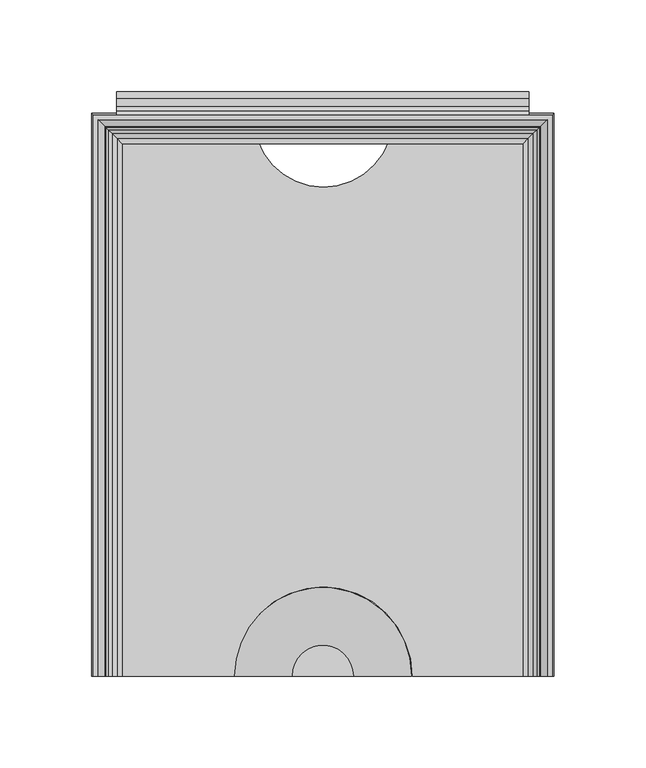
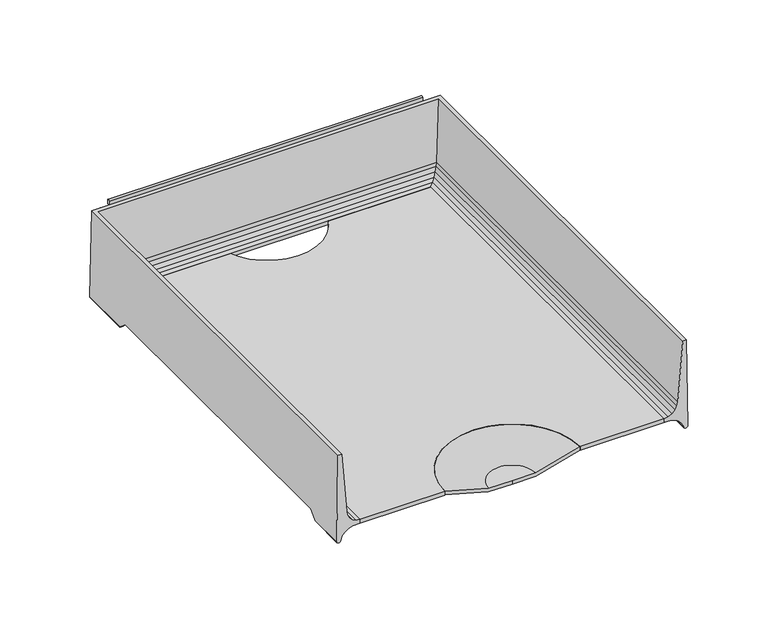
"""IFC4 building model written with IfcOpenShell, lengths in millimetres: furniture geometry."""

from ifc_helpers import new_model, si_unit, point, frame, frame_2d, origin, place, context, project, spatial, polyline, circle_curve, ellipse_curve, trimmed, segment, composite_curve, outline, extrude, source, transform, mapped, element, save
from ifc_brep_helpers import plane_surface, cylinder_surface, revolved_surface, advanced_brep


def furniture_f982e0c0(model_context):
    return source(origin(), model_context, "Body", "SolidModel", [
        advanced_brep(
        [(126.0820502, -154.0206082, 853.1892089), (125.1325529, -154.0206082, 918.5886514), (122.4547921, -154.0206082, 918.5886514), (118.8379747, -154.0206082, 873.8015603), (118.4123648, -154.0206082, 871.0680652), (117.0774354, -154.0206082, 868.3670264), (114.9656457, -154.0206082, 866.2180615), (112.28832, -154.0206082, 864.8361861), (109.3133381, -154.0206082, 864.3596652), (109.3133381, -154.0206082, 861.5375571), (114.5666739, -154.0206082, 861.3445587), (117.605351, -154.0206082, 860.2881818), (120.2416, -154.0206082, 858.4443422), (122.2762142, -154.0206082, 855.9523679), (123.1625518, -154.0206082, 852.9091255), (126.0820502, -127.6379698, 853.1892089), (126.0026181, -121.5231874, 858.660332), (126.0026181, 109.0611937, 858.660332), (126.0820502, 115.1759816, 853.1892089), (126.0820502, 153.036442, 853.1892089), (125.1325529, 152.0869447, 918.5886514), (-125.1325529, 152.0869447, 918.5886514), (-125.1325529, -154.0206082, 918.5886514), (-122.4547921, -154.0206082, 918.5886514), (-122.4547921, 149.4091839, 918.5886514), (122.4547921, 149.4091839, 918.5886514), (118.8379747, 145.7923665, 873.8015603), (118.4123648, 145.3667566, 871.0680652), (117.0774354, 144.0318272, 868.3670264), (114.9656457, 141.9200375, 866.2180615), (112.28832, 139.2427118, 864.8361861), (109.3133381, 136.2677299, 864.3596652), (109.3133381, 136.2677299, 861.5375571), (114.5666739, 141.5210656, 861.3445587), (117.605351, 144.5597428, 860.2881818), (120.2416, 147.1959918, 858.4443422), (120.2416, 109.3025941, 858.4443422), (119.9327864, 109.0611937, 858.660332), (119.9327864, -121.5231874, 858.660332), (120.2416, -121.7645876, 858.4443422), (122.2762142, -124.5497344, 855.9523679), (122.2762142, 149.230606, 855.9523679), (122.2762142, 112.0877435, 855.9523679), (123.1625518, -127.9510041, 852.9091255), (123.1625518, 150.1169436, 852.9091255), (123.1625518, 115.4890162, 852.9091255), (-126.0820502, 153.036442, 853.1892089), (-118.8379747, 145.7923665, 873.8015603), (-118.4123648, 145.3667566, 871.0680652), (-117.0774354, 144.0318272, 868.3670264), (-114.9656457, 141.9200375, 866.2180615), (-112.28832, 139.2427118, 864.8361861), (-109.3133381, 136.2677299, 864.3596652), (-109.3133381, 136.2677299, 861.5375571), (-114.5666739, 141.5210656, 861.3445587), (-117.605351, 144.5597428, 860.2881818), (-120.2416, 147.1959918, 858.4443422), (-122.2762142, 149.230606, 855.9523679), (-123.1625518, 150.1169436, 852.9091255), (-126.0820502, -154.0206082, 853.1892089), (-123.1625518, -154.0206082, 852.9091255), (-122.2762142, -154.0206082, 855.9523679), (-120.2416, -154.0206082, 858.4443422), (-117.605351, -154.0206082, 860.2881818), (-114.5666739, -154.0206082, 861.3445587), (-109.3133381, -154.0206082, 861.5375571), (-109.3133381, -154.0206082, 864.3596652), (-112.28832, -154.0206082, 864.8361861), (-114.9656457, -154.0206082, 866.2180615), (-117.0774354, -154.0206082, 868.3670264), (-118.4123648, -154.0206082, 871.0680652), (-118.8379747, -154.0206082, 873.8015603), (-126.0820502, 115.1759816, 853.1892089), (-126.0026181, 109.0611937, 858.660332), (-126.0026181, -121.5231874, 858.660332), (-126.0820502, -127.6379698, 853.1892089), (-120.2416, -121.7645876, 858.4443422), (-119.9327864, -121.5231874, 858.660332), (-119.9327864, 109.0611937, 858.660332), (-120.2416, 109.3025941, 858.4443422), (-122.2762142, 112.0877435, 855.9523679), (-122.2762142, -124.5497344, 855.9523679), (-123.1625518, 115.4890162, 852.9091255), (-123.1625518, -127.9510041, 852.9091255)],
        [
            (0, 1),
            (1, 2),
            (2, 3),
            (3, 4),
            (4, 5),
            (5, 6),
            (6, 7),
            (7, 8),
            (8, 9),
            (9, 10),
            (10, 11),
            (11, 12),
            (12, 13),
            (13, 14),
            (14, 0, circle_curve(frame((124.5859452, -154.0206082, 853.4281285), z_axis=(0.0, -1.0, 0.0), x_axis=(-1.0, 0.0, 0.0)), 1.515062)),
            (0, 15),
            (15, 16),
            (16, 17),
            (17, 18),
            (18, 19),
            (19, 20),
            (20, 1),
            (20, 21),
            (21, 22),
            (22, 23),
            (23, 24),
            (24, 25),
            (25, 2),
            (25, 26),
            (26, 3),
            (26, 27),
            (27, 4),
            (27, 28),
            (28, 5),
            (28, 29),
            (29, 6),
            (29, 30),
            (30, 7),
            (30, 31),
            (31, 8),
            (31, 32),
            (32, 9),
            (32, 33),
            (33, 10),
            (33, 34),
            (34, 11),
            (34, 35),
            (35, 36),
            (36, 37),
            (37, 38),
            (38, 39),
            (39, 12),
            (39, 40),
            (40, 13),
            (35, 41),
            (41, 42),
            (42, 36),
            (40, 43),
            (43, 14),
            (41, 44),
            (44, 45),
            (45, 42),
            (43, 15, ellipse_curve(frame((124.5859452, -127.3709422, 853.4281285), z_axis=(0.0, -0.6667949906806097, 0.7452411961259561), x_axis=(0.0, -0.7452411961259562, -0.6667949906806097)), 2.2721556, 1.515062)),
            (44, 19, ellipse_curve(frame((124.5859452, 151.540337, 853.4281285), z_axis=(0.7071067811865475, -0.7071067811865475, 0.0), x_axis=(-0.7071067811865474, -0.7071067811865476, 0.0)), 2.1426212, 1.515062)),
            (18, 45, ellipse_curve(frame((124.5859452, 114.9089538, 853.4281285), z_axis=(0.0, 0.6667946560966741, 0.7452414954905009), x_axis=(0.0, -0.7452414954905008, 0.6667946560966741)), 2.2721567, 1.515062)),
            (19, 46),
            (46, 21),
            (24, 47),
            (47, 26),
            (47, 48),
            (48, 27),
            (48, 49),
            (49, 28),
            (49, 50),
            (50, 29),
            (50, 51),
            (51, 30),
            (51, 52),
            (52, 31),
            (52, 53),
            (53, 32),
            (53, 54),
            (54, 33),
            (54, 55),
            (55, 34),
            (55, 56),
            (56, 35),
            (56, 57),
            (57, 41),
            (57, 58),
            (58, 44),
            (58, 46, ellipse_curve(frame((-124.5859452, 151.540337, 853.4281285), z_axis=(0.7071067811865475, 0.7071067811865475, 0.0), x_axis=(0.7071067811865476, -0.7071067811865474, 0.0)), 2.1426212, 1.515062)),
            (22, 59),
            (59, 60, circle_curve(frame((-124.5859452, -154.0206082, 853.4281285), z_axis=(0.0, -1.0, 0.0), x_axis=(1.0, 0.0, 0.0)), 1.515062)),
            (60, 61),
            (61, 62),
            (62, 63),
            (63, 64),
            (64, 65),
            (65, 66),
            (66, 67),
            (67, 68),
            (68, 69),
            (69, 70),
            (70, 71),
            (71, 23),
            (46, 72),
            (72, 73),
            (73, 74),
            (74, 75),
            (75, 59),
            (71, 47),
            (70, 48),
            (69, 49),
            (68, 50),
            (67, 51),
            (66, 52),
            (65, 53),
            (64, 54),
            (63, 55),
            (62, 76),
            (76, 77),
            (77, 78),
            (78, 79),
            (79, 56),
            (79, 80),
            (80, 57),
            (61, 81),
            (81, 76),
            (80, 82),
            (82, 58),
            (60, 83),
            (83, 81),
            (82, 72, ellipse_curve(frame((-124.5859452, 114.9089538, 853.4281285), z_axis=(0.0, 0.6667946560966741, 0.7452414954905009), x_axis=(0.0, 0.7452414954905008, -0.6667946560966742)), 2.2721567, 1.515062)),
            (75, 83, ellipse_curve(frame((-124.5859452, -127.3709422, 853.4281285), z_axis=(0.0, -0.6667949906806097, 0.7452411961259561), x_axis=(0.0, 0.745241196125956, 0.6667949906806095)), 2.2721556, 1.515062)),
            (38, 16),
            (74, 77),
            (37, 17),
            (73, 78),
        ],
        [
            plane_surface(frame((127.0, -154.0206082, 851.91346), z_axis=(0.0, -1.0, 0.0), x_axis=(0.0, 0.0, 1.0))),
            plane_surface(frame((126.0820502, -154.0206082, 853.1892089), z_axis=(0.9998946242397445, 0.0, 0.014516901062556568), x_axis=(0.0, 1.0, 0.0))),
            plane_surface(frame((125.1325529, -154.0206082, 918.5886514), z_axis=(0.0, 0.0, 1.0), x_axis=(0.0, 1.0, 0.0))),
            plane_surface(frame((122.4547921, -154.0206082, 918.5886514), z_axis=(-0.9967551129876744, 0.0, 0.08049375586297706), x_axis=(0.0, 1.0, 0.0))),
            plane_surface(frame((118.8379747, -154.0206082, 873.8015603), z_axis=(-0.9880945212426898, 0.0, 0.15384803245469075), x_axis=(0.0, 1.0, 0.0))),
            plane_surface(frame((118.4123648, -154.0206082, 871.0680652), z_axis=(-0.8964873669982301, 0.0, 0.44306929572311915), x_axis=(0.0, 1.0, 0.0))),
            plane_surface(frame((117.0774354, -154.0206082, 868.3670264), z_axis=(-0.7132491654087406, 0.0, 0.7009105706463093), x_axis=(0.0, 1.0, 0.0))),
            plane_surface(frame((114.9656457, -154.0206082, 866.2180615), z_axis=(-0.45865074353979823, 0.0, 0.8886166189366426), x_axis=(0.0, 1.0, 0.0))),
            plane_surface(frame((112.28832, -154.0206082, 864.8361861), z_axis=(-0.15816001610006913, 0.0, 0.987413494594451), x_axis=(0.0, 1.0, 0.0))),
            plane_surface(frame((109.3133381, -154.0206082, 864.3596652), z_axis=(-1.0, 0.0, 0.0), x_axis=(0.0, 1.0, 0.0))),
            plane_surface(frame((109.3133381, -154.0206082, 861.5375571), z_axis=(-0.036713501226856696, 0.0, -0.9993258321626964), x_axis=(0.0, 1.0, 0.0))),
            plane_surface(frame((114.5666739, -154.0206082, 861.3445587), z_axis=(-0.3283669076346, 0.0, -0.9445502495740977), x_axis=(0.0, 1.0, 0.0))),
            plane_surface(frame((117.605351, -154.0206082, 860.2881818), z_axis=(-0.5731421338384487, 0.0, -0.819455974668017), x_axis=(0.0, 1.0, 0.0))),
            plane_surface(frame((120.2416, -154.0206082, 858.4443422), z_axis=(-0.77460799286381, 0.0, -0.6324416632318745), x_axis=(0.0, 1.0, 0.0))),
            plane_surface(frame((122.2762142, -154.0206082, 855.9523679), z_axis=(-0.9601080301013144, 0.0, -0.2796293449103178), x_axis=(0.0, 1.0, 0.0))),
            cylinder_surface(frame((124.5859452, -154.0206082, 853.4281285), z_axis=(0.0, -1.0, 0.0), x_axis=(-1.0, 0.0, 0.0)), 1.515062),
            plane_surface(frame((126.0820502, 153.036442, 853.1892089), z_axis=(0.0, 0.9998946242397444, 0.014516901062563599), x_axis=(-1.0, 0.0, 0.0))),
            plane_surface(frame((122.4547921, 149.4091839, 918.5886514), z_axis=(0.0, -0.9967551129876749, 0.08049375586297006), x_axis=(-1.0, 0.0, 0.0))),
            plane_surface(frame((118.8379747, 145.7923665, 873.8015603), z_axis=(0.0, -0.9880945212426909, 0.15384803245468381), x_axis=(-1.0, 0.0, 0.0))),
            plane_surface(frame((118.4123648, 145.3667566, 871.0680652), z_axis=(0.0, -0.8964873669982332, 0.4430692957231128), x_axis=(-1.0, 0.0, 0.0))),
            plane_surface(frame((117.0774354, 144.0318272, 868.3670264), z_axis=(0.0, -0.7132491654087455, 0.7009105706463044), x_axis=(-1.0, 0.0, 0.0))),
            plane_surface(frame((114.9656457, 141.9200375, 866.2180615), z_axis=(0.0, -0.4586507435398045, 0.8886166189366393), x_axis=(-1.0, 0.0, 0.0))),
            plane_surface(frame((112.28832, 139.2427118, 864.8361861), z_axis=(0.0, -0.15816001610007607, 0.9874134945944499), x_axis=(-1.0, 0.0, 0.0))),
            plane_surface(frame((109.3133381, 136.2677299, 864.3596652), z_axis=(0.0, -1.0, 0.0), x_axis=(-1.0, 0.0, 0.0))),
            plane_surface(frame((109.3133381, 136.2677299, 861.5375571), z_axis=(0.0, -0.03671350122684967, -0.9993258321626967), x_axis=(-1.0, 0.0, 0.0))),
            plane_surface(frame((114.5666739, 141.5210656, 861.3445587), z_axis=(0.0, -0.32836690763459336, -0.9445502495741), x_axis=(-1.0, 0.0, 0.0))),
            plane_surface(frame((117.605351, 144.5597428, 860.2881818), z_axis=(0.0, -0.5731421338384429, -0.819455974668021), x_axis=(-1.0, 0.0, 0.0))),
            plane_surface(frame((120.2416, 147.1959918, 858.4443422), z_axis=(0.0, -0.7746079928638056, -0.6324416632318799), x_axis=(-1.0, 0.0, 0.0))),
            plane_surface(frame((122.2762142, 149.230606, 855.9523679), z_axis=(0.0, -0.9601080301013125, -0.27962934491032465), x_axis=(-1.0, 0.0, 0.0))),
            cylinder_surface(frame((127.0, 151.540337, 853.4281285), z_axis=(1.0, 0.0, 0.0), x_axis=(0.0, -1.0, 0.0)), 1.515062),
            plane_surface(frame((-127.0, -154.0206082, 851.91346), z_axis=(0.0, -1.0, 0.0), x_axis=(0.0, 0.0, 1.0))),
            plane_surface(frame((-126.0820502, 153.036442, 853.1892089), z_axis=(-0.9998946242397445, 0.0, 0.014516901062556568), x_axis=(0.0, -1.0, 0.0))),
            plane_surface(frame((-122.4547921, 149.4091839, 918.5886514), z_axis=(0.9967551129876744, 0.0, 0.08049375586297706), x_axis=(0.0, -1.0, 0.0))),
            plane_surface(frame((-118.8379747, 145.7923665, 873.8015603), z_axis=(0.9880945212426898, 0.0, 0.15384803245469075), x_axis=(0.0, -1.0, 0.0))),
            plane_surface(frame((-118.4123648, 145.3667566, 871.0680652), z_axis=(0.8964873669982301, 0.0, 0.44306929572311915), x_axis=(0.0, -1.0, 0.0))),
            plane_surface(frame((-117.0774354, 144.0318272, 868.3670264), z_axis=(0.7132491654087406, 0.0, 0.7009105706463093), x_axis=(0.0, -1.0, 0.0))),
            plane_surface(frame((-114.9656457, 141.9200375, 866.2180615), z_axis=(0.45865074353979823, 0.0, 0.8886166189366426), x_axis=(0.0, -1.0, 0.0))),
            plane_surface(frame((-112.28832, 139.2427118, 864.8361861), z_axis=(0.15816001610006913, 0.0, 0.987413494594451), x_axis=(0.0, -1.0, 0.0))),
            plane_surface(frame((-109.3133381, 136.2677299, 864.3596652), z_axis=(1.0, 0.0, 0.0), x_axis=(0.0, -1.0, 0.0))),
            plane_surface(frame((-109.3133381, 136.2677299, 861.5375571), z_axis=(0.036713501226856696, 0.0, -0.9993258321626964), x_axis=(0.0, -1.0, 0.0))),
            plane_surface(frame((-114.5666739, 141.5210656, 861.3445587), z_axis=(0.3283669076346, 0.0, -0.9445502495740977), x_axis=(0.0, -1.0, 0.0))),
            plane_surface(frame((-117.605351, 144.5597428, 860.2881818), z_axis=(0.5731421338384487, 0.0, -0.819455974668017), x_axis=(0.0, -1.0, 0.0))),
            plane_surface(frame((-120.2416, 147.1959918, 858.4443422), z_axis=(0.77460799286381, 0.0, -0.6324416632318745), x_axis=(0.0, -1.0, 0.0))),
            plane_surface(frame((-122.2762142, 149.230606, 855.9523679), z_axis=(0.9601080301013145, 0.0, -0.2796293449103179), x_axis=(0.0, -1.0, 0.0))),
            cylinder_surface(frame((-124.5859452, 153.9543918, 853.4281285), z_axis=(0.0, 1.0, 0.0), x_axis=(1.0, 0.0, 0.0)), 1.515062),
            plane_surface(frame((-127.0, -130.1695728, 850.9240896), z_axis=(0.0, 0.6667949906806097, -0.7452411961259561), x_axis=(1.0, 0.0, 0.0))),
            plane_surface(frame((-127.0, -121.5231874, 858.660332), z_axis=(0.0, 0.0, -1.0), x_axis=(1.0, 0.0, 0.0))),
            plane_surface(frame((-127.0, 109.0611937, 858.660332), z_axis=(0.0, -0.6667946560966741, -0.7452414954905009), x_axis=(1.0, 0.0, 0.0))),
        ],
        [
            (0, [[1, 2, 3, 4, 5, 6, 7, 8, 9, 10, 11, 12, 13, 14, 15]]),
            (1, [[-1, 16, 17, 18, 19, 20, 21, 22]]),
            (2, [[-2, -22, 23, 24, 25, 26, 27, 28]]),
            (3, [[-3, -28, 29, 30]]),
            (4, [[-4, -30, 31, 32]]),
            (5, [[-5, -32, 33, 34]]),
            (6, [[-6, -34, 35, 36]]),
            (7, [[-7, -36, 37, 38]]),
            (8, [[-8, -38, 39, 40]]),
            (9, [[-9, -40, 41, 42]]),
            (10, [[-10, -42, 43, 44]]),
            (11, [[-11, -44, 45, 46]]),
            (12, [[-12, -46, 47, 48, 49, 50, 51, 52]]),
            (13, [[-13, -52, 53, 54]]),
            (13, [[55, 56, 57, -48]]),
            (14, [[-14, -54, 58, 59]]),
            (14, [[60, 61, 62, -56]]),
            (15, [[-15, -59, 63, -16]]),
            (15, [[64, -20, 65, -61]]),
            (16, [[-21, 66, 67, -23]]),
            (17, [[-27, 68, 69, -29]]),
            (18, [[-31, -69, 70, 71]]),
            (19, [[-33, -71, 72, 73]]),
            (20, [[-35, -73, 74, 75]]),
            (21, [[-37, -75, 76, 77]]),
            (22, [[-39, -77, 78, 79]]),
            (23, [[-41, -79, 80, 81]]),
            (24, [[-43, -81, 82, 83]]),
            (25, [[-45, -83, 84, 85]]),
            (26, [[-47, -85, 86, 87]]),
            (27, [[-55, -87, 88, 89]]),
            (28, [[-60, -89, 90, 91]]),
            (29, [[-64, -91, 92, -66]]),
            (30, [[-25, 93, 94, 95, 96, 97, 98, 99, 100, 101, 102, 103, 104, 105, 106]]),
            (31, [[-24, -67, 107, 108, 109, 110, 111, -93]]),
            (32, [[-26, -106, 112, -68]]),
            (33, [[-70, -112, -105, 113]]),
            (34, [[-72, -113, -104, 114]]),
            (35, [[-74, -114, -103, 115]]),
            (36, [[-76, -115, -102, 116]]),
            (37, [[-78, -116, -101, 117]]),
            (38, [[-80, -117, -100, 118]]),
            (39, [[-82, -118, -99, 119]]),
            (40, [[-84, -119, -98, 120]]),
            (41, [[-86, -120, -97, 121, 122, 123, 124, 125]]),
            (42, [[-88, -125, 126, 127]]),
            (42, [[-96, 128, 129, -121]]),
            (43, [[-90, -127, 130, 131]]),
            (43, [[-95, 132, 133, -128]]),
            (44, [[-92, -131, 134, -107]]),
            (44, [[-94, -111, 135, -132]]),
            (45, [[136, -17, -63, -58, -53, -51]]),
            (45, [[137, -122, -129, -133, -135, -110]]),
            (46, [[-136, -50, 138, -18]]),
            (46, [[-137, -109, 139, -123]]),
            (47, [[-138, -49, -57, -62, -65, -19]]),
            (47, [[-139, -108, -134, -130, -126, -124]]),
        ],
    ),
        extrude(outline(composite_curve([segment(polyline([(-109.3647805, 138.2769393), (-35.6610422, 138.2769393)]), True, "CONTINUOUS"), segment(trimmed(circle_curve(frame_2d((0.3369133, 150.6584166)), 38.0677525), [point((-35.6610422, 138.2769393))], [point((36.3348688, 138.2769393))], True, "CARTESIAN"), True, "CONTINUOUS"), segment(polyline([(36.3348688, 138.2769393), (109.6504969, 138.2769393), (109.6504969, -153.9875), (48.9112184, -153.9875)]), True, "CONTINUOUS"), segment(trimmed(circle_curve(frame_2d((0.2842795, -153.9323196)), 48.6269702), [point((48.9112184, -153.9875))], [point((-48.3426595, -153.9875))], True, "CARTESIAN"), True, "CONTINUOUS"), segment(polyline([(-48.3426595, -153.9875), (-109.3647805, -153.9875), (-109.3647805, 138.2769393)]), True, "CONTINUOUS")], self_intersect=False)), frame((0.0, 0.0, 861.5199277), z_axis=(0.0, 0.0, 1.0), x_axis=(1.0, 0.0, 0.0)), (0.0, 0.0, 1.0), 2.8395461),
        extrude(outline(composite_curve([segment(trimmed(circle_curve(frame_2d((162.7186949, 902.7591943)), 1.9049988), [point((164.6236937, 902.7591943))], [point((160.8136962, 902.7591943))], False, "CARTESIAN"), True, "CONTINUOUS"), segment(polyline([(160.8136962, 902.7591943), (160.8136962, 906.1881911), (160.0516969, 906.9501903), (156.4380325, 906.9501903), (152.1427596, 904.6027931), (152.1427596, 913.1075885), (156.4380325, 910.7601912), (160.8136928, 910.7601912)]), True, "CONTINUOUS"), segment(trimmed(circle_curve(frame_2d((160.8136928, 906.9501903)), 3.8100009), [point((160.8136928, 910.7601912))], [point((164.6236937, 906.9501903))], False, "CARTESIAN"), True, "CONTINUOUS"), segment(polyline([(164.6236937, 906.9501903), (164.6236937, 902.7591943)]), True, "CONTINUOUS")], self_intersect=False)), frame((-112.5397809, 0.0, 0.0), z_axis=(1.0, 0.0, 0.0), x_axis=(0.0, 1.0, 0.0)), (0.0, 0.0, 1.0), 225.0795617),
        advanced_brep(
        [(-16.8929028, -153.9875, 855.485335), (-48.4614622, -153.9875, 864.3930032), (-48.4614622, -153.9875, 861.8014618), (-16.9249292, -153.9875, 852.9028304), (0.0, -153.9875, 852.9028304), (0.0, -153.9875, 855.485335), (16.8929028, -153.9875, 855.485335), (16.9249292, -153.9875, 852.9028304), (48.4614622, -153.9875, 861.8014618), (48.4614622, -153.9875, 864.3930032)],
        [
            (0, 1),
            (1, 2),
            (2, 3),
            (3, 4),
            (4, 5),
            (5, 0),
            (6, 5),
            (4, 7),
            (7, 8),
            (8, 9),
            (9, 6),
            (9, 1, circle_curve(frame((0.0, -153.9875, 864.3930032), z_axis=(0.0, 0.0, 1.0), x_axis=(-1.0, 0.0, 0.0)), 48.4614622)),
            (0, 6, circle_curve(frame((0.0, -153.9875, 855.485335), z_axis=(0.0, 0.0, -1.0), x_axis=(-1.0, 0.0, 0.0)), 16.8929028)),
            (8, 2, circle_curve(frame((0.0, -153.9875, 861.8014618), z_axis=(0.0, 0.0, 1.0), x_axis=(-1.0, 0.0, 0.0)), 48.4614622)),
            (7, 3, circle_curve(frame((0.0, -153.9875, 852.9028304), z_axis=(0.0, 0.0, 1.0), x_axis=(-1.0, 0.0, 0.0)), 16.9249292)),
        ],
        [
            plane_surface(frame((0.0, -153.9875, 851.91346), z_axis=(0.0, -1.0, 0.0), x_axis=(-1.0, 0.0, 0.0))),
            plane_surface(frame((0.0, -153.9875, 851.91346), z_axis=(0.0, -1.0, 0.0), x_axis=(1.0, 0.0, 0.0))),
            revolved_surface(polyline([(-48.4614622, -153.9875, 864.3930032), (-16.8929028, -153.9875, 855.485335)]), (0.0, -153.9875, 851.91346), (0.0, 0.0, 1.0)),
            cylinder_surface(frame((0.0, -153.9875, 851.91346), z_axis=(0.0, 0.0, 1.0), x_axis=(-1.0, 0.0, 0.0)), 48.4614622),
            revolved_surface(polyline([(-16.9249292, -153.9875, 852.9028304), (-48.4614622, -153.9875, 861.8014618)]), (0.0, -153.9875, 851.91346), (0.0, 0.0, 1.0)),
            plane_surface(frame((0.0, -153.9875, 852.9028304), z_axis=(0.0, 0.0, -1.0), x_axis=(-1.0, 0.0, 0.0))),
            plane_surface(frame((0.0, -153.9875, 855.485335), z_axis=(0.0, 0.0, 1.0), x_axis=(-1.0, 0.0, 0.0))),
        ],
        [
            (0, [[1, 2, 3, 4, 5, 6]]),
            (1, [[7, -5, 8, 9, 10, 11]]),
            (2, [[12, -1, 13, -11]]),
            (3, [[14, -2, -12, -10]]),
            (4, [[15, -3, -14, -9]]),
            (5, [[-4, -15, -8]]),
            (6, [[-13, -6, -7]]),
        ],
    ),
        extrude(outline(composite_curve([segment(polyline([(153.9875, 918.58846), (152.1427596, 918.58846), (152.1427596, 921.4199933)]), True, "CONTINUOUS"), segment(trimmed(circle_curve(frame_2d((153.0651298, 921.1147265)), 0.9715733), [point((152.1427596, 921.4199933))], [point((153.9875, 921.4199933))], False, "CARTESIAN"), True, "CONTINUOUS"), segment(polyline([(153.9875, 921.4199933), (153.9875, 918.58846)]), True, "CONTINUOUS")], self_intersect=False)), frame((-112.5397809, 0.0, 0.0), z_axis=(1.0, 0.0, 0.0), x_axis=(0.0, 1.0, 0.0)), (0.0, 0.0, 1.0), 225.0795617),
    ])


if __name__ == "__main__":
    model = new_model("IFC4")
    model_context = context("Model", 3, world=origin())
    ifc_project = project(units=[si_unit("LENGTHUNIT", "METRE", prefix="MILLI")], contexts=[model_context])
    site = spatial("IfcSite", under=ifc_project)
    building = spatial("IfcBuilding", under=site)
    placement = place(None, origin())
    furniture_shape = furniture_f982e0c0(model_context)
    element("IfcFurniture", 1, ObjectType="HermanMiller_ThrivePortfolio_Y7216_PaperTray : 3\"H x 12\"D x 10\"W", at=placement, inside=building, context=model_context, shape_type="MappedRepresentation", body=[
        mapped(furniture_shape, transform((0.0, 0.0, 0.0), x_axis=(1.0, 0.0, 0.0), y_axis=(0.0, 1.0, 0.0), z_axis=(0.0, 0.0, 1.0))),
    ])
    save(model, "model.ifc")
